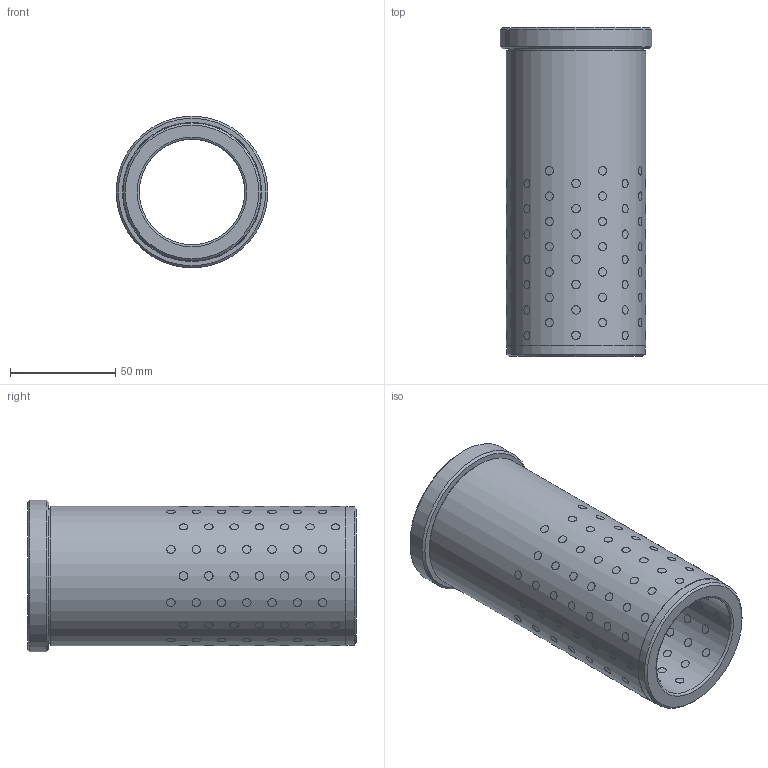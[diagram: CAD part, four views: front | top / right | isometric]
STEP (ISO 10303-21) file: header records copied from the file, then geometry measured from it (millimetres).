
FILE_DESCRIPTION( ( 'STEP AP203' ), '1' );
FILE_NAME( 'D:/Cuma/D30.05/D30.05_50156.step', '2003-01-20T18:20:00', ( ' ' ), ( ' ' ), 'XStep 1.0', ' ', ' ' );
FILE_SCHEMA( ( 'CONFIG_CONTROL_DESIGN' ) );
Length unit declared in the file: metre
Products named in the file (129): 1; 2; 3; 4; 5; 6; 7; 8; 9; 10; 11; 12; 13; 14; 15; 16; 17; 18; 19; 20; 21; 22; 23; 24; 25; 26; 27; 28; 29; 30; 31; 32; 33; 34; 35; 36; 37; 38; 39; 40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
Bounding box: 72 x 156 x 72 mm (x, y, z)
Volume: 245645.8 mm3; surface area: 77096.8 mm2
Topology: 129 solids, 129 shells, 399 faces, 409 edges, 271 vertices
Faces by surface type: cylinder 389, plane 5, cone 3, torus 2
Full cylindrical faces by diameter (mm): 4 x128, 50 x1, 64 x1, 65.5 x1, 66 x1, 72 x1
Entity records: 25441 total; most frequent: CARTESIAN_POINT 14894, DIRECTION 1086, CC_DESIGN_PERSON_AND_ORGANIZATION_ASSIGNMENT 645, AXIS2_PLACEMENT_3D 543, EDGE_LOOP 542, ORIENTED_EDGE 542, FACE_OUTER_BOUND 534, PERSON_AND_ORGANIZATION_ROLE 516
